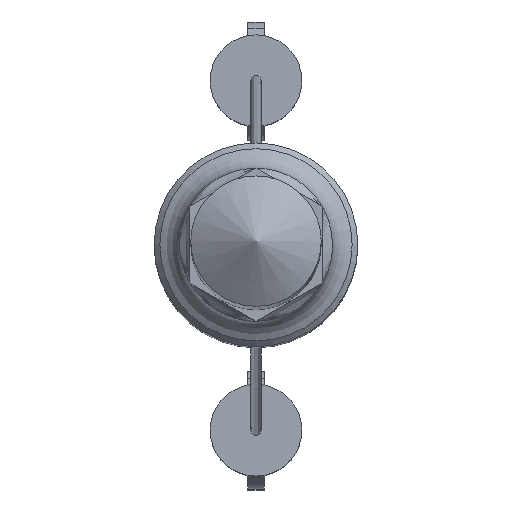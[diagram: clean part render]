
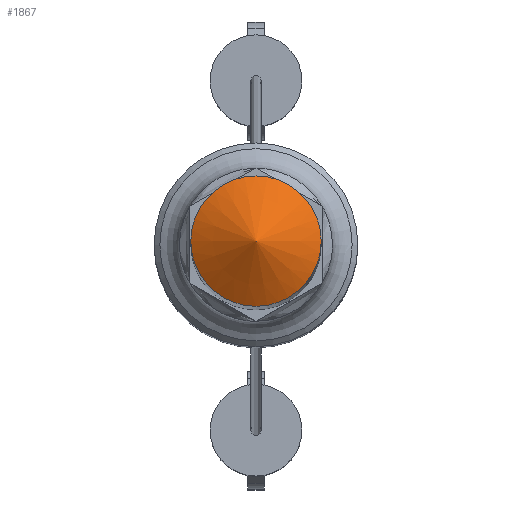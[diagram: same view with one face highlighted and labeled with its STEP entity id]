
A CAD part, top view. The second image highlights one B-rep face of the part: STEP entity #1867.
In plain terms, the highlighted conical face has half-angle 60 degrees and reference radius 3.2 mm.
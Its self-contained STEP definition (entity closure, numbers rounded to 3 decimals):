
#34 = VERTEX_POINT ( 'NONE', #2442 ) ;
#36 = EDGE_CURVE ( 'NONE', #34, #34, #908, .T. ) ;
#442 = DIRECTION ( 'NONE',  ( 1., 0., 0. ) ) ;
#860 = FACE_OUTER_BOUND ( 'NONE', #1370, .T. ) ;
#908 = CIRCLE ( 'NONE', #1939, 3.2 ) ;
#1370 = EDGE_LOOP ( 'NONE', ( #2676 ) ) ;
#1715 = DIRECTION ( 'NONE',  ( 0., 0., -1. ) ) ;
#1727 = CONICAL_SURFACE ( 'NONE', #2702, 3.2, 1.047 ) ;
#1867 = ADVANCED_FACE ( 'NONE', ( #860 ), #1727, .T. ) ;
#1911 = CARTESIAN_POINT ( 'NONE',  ( 0., 0., 98.152 ) ) ;
#1939 = AXIS2_PLACEMENT_3D ( 'NONE', #2457, #2558, #442 ) ;
#2150 = DIRECTION ( 'NONE',  ( -1., 0., 0. ) ) ;
#2442 = CARTESIAN_POINT ( 'NONE',  ( 3.2, 0., 98.152 ) ) ;
#2457 = CARTESIAN_POINT ( 'NONE',  ( 0., 0., 98.152 ) ) ;
#2558 = DIRECTION ( 'NONE',  ( 0., 0., 1. ) ) ;
#2676 = ORIENTED_EDGE ( 'NONE', *, *, #36, .T. ) ;
#2702 = AXIS2_PLACEMENT_3D ( 'NONE', #1911, #1715, #2150 ) ;
